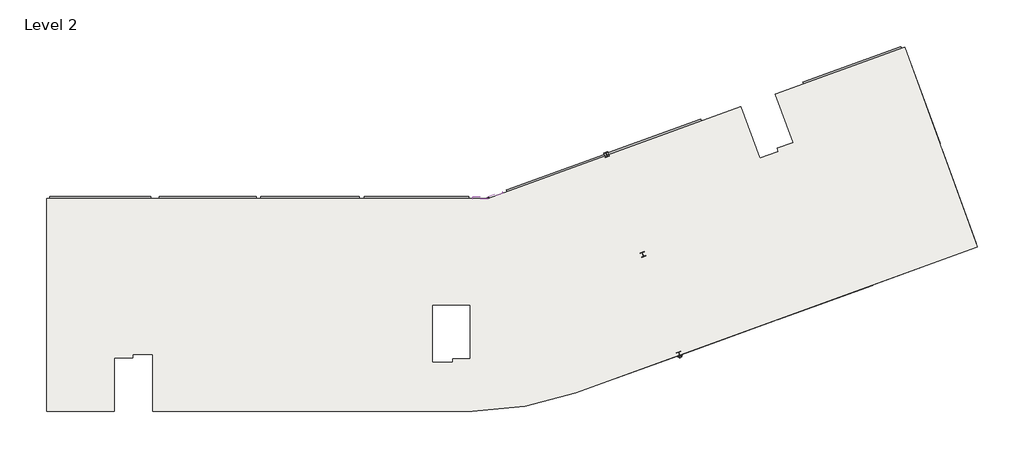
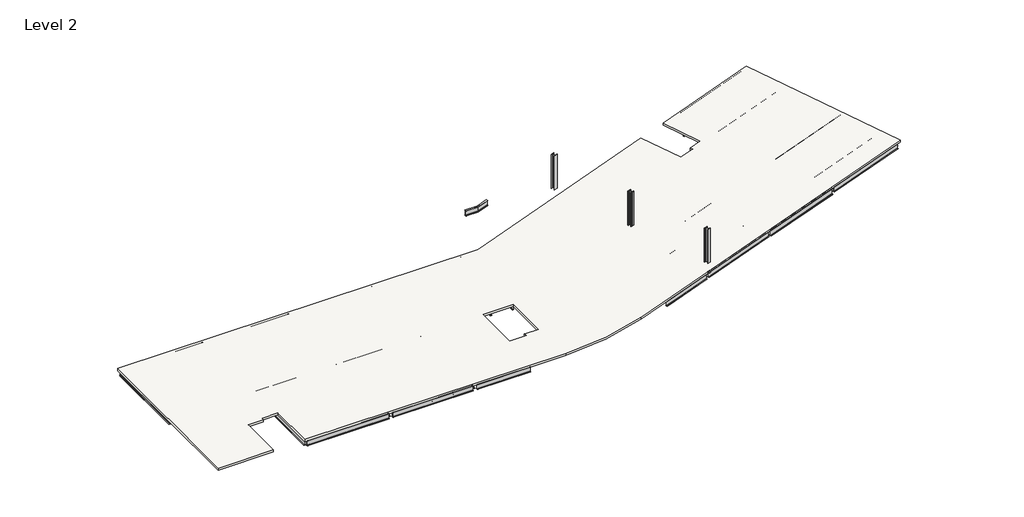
# One storey: 88 beams, 3 columns, 1 slab.
"""IFC4 building model written with IfcOpenShell, lengths in millimetres."""

from ifc_helpers import new_model, si_unit, frame, origin, place, context, project, spatial, circle_curve, transform, mapped, element, save
from ifc_brep_helpers import plane_surface, cylinder_surface, advanced_brep
from components import beam_fb4f222d, l_unequal_leg_angles_l150x75x12_5957f89b, ub_universal_beams_ub305x127x37_f823aa85, ub_universal_beams_ub305x127x37_cdbcbb51, ub_universal_beams_ub305x127x37_8d1efc97, ub_universal_beams_ub305x127x37_2b7a043a, ub_universal_beams_ub305x127x37_8d2b0bf5, ub_universal_beams_ub305x127x37_777f85ab, ub_universal_beams_ub305x127x37_16a75a32, ub_universal_beams_ub305x127x37_b9a7bbe5, ub_universal_beams_ub305x127x37_60794b88, ub_universal_beams_ub305x127x37_0c249d50, ub_universal_beams_ub457x152x67_feb0265b, ub_universal_beams_ub457x152x67_78ad538f, ub_universal_beams_ub457x152x67_801fcbf0, ub_universal_beams_ub457x152x67_7192e0ee, ub_universal_beams_ub457x152x67_e0a47d06, ub_universal_beams_ub457x152x67_f5dc209c, ub_universal_beams_ub457x152x67_f862a4b8, ub_universal_beams_ub457x152x67_25e113f4, ub_universal_beams_ub457x152x67_bf94d013, ub_universal_beams_ub457x152x67_f4163d89, ub_universal_beams_ub457x152x67_2e62ce28, ub_universal_beams_ub457x152x67_04894bd8, ub_universal_beams_ub457x152x67_1d55edab, ub_universal_beams_ub457x152x67_86edb436, ub_universal_beams_ub457x152x67_b17e2f2f, ub_universal_beams_ub457x152x67_b2f2df74, ub_universal_beams_ub457x152x67_b8e2def0, ub_universal_beams_ub457x152x67_2ff38e45, ub_universal_beams_ub457x152x67_e84ce350, ub_universal_beams_ub457x152x67_9db4b58f, ub_universal_beams_ub457x152x67_cb9275ae, ub_universal_beams_ub457x152x67_412efc86, ub_universal_beams_ub457x152x67_9aa03224, ub_universal_beams_ub457x152x67_9cac6dc0, ub_universal_beams_ub457x152x67_907c3d5a, ub_universal_beams_ub457x152x67_0b84d38f, ub_universal_beams_ub457x152x67_1f1a17ad, ub_universal_beams_ub457x152x67_691381ed, ub_universal_beams_ub457x152x67_d2a0b01a, ub_universal_beams_ub457x152x67_b2398499, ub_universal_beams_ub457x152x67_5dccb8d6, ub_universal_beams_ub457x152x67_6dce09a5, ub_universal_beams_ub533x210x82_8ec85ef7, ub_universal_beams_ub533x210x82_ef77b3a2, ub_universal_beams_ub533x210x82_80eea541, w_shapes_column_w12x79_ed890722

model = new_model("IFC4")

# Units and contexts
model_context = context("Model", 3, world=origin())
ifc_project = project(units=[si_unit("LENGTHUNIT", "METRE", prefix="MILLI")], contexts=[model_context])

# Site, building, storey
site = spatial("IfcSite", under=ifc_project)
building = spatial("IfcBuilding", under=site)
storey = spatial("IfcBuildingStorey", under=building, Name="Level 2", Elevation=7595.0)

# Beams
placement = place(None, origin())
beam_shape = beam_fb4f222d(model_context)
element("IfcBeam", 1, ObjectType="Cranked Beam B3 : Cranked Beam B1", at=placement, inside=storey, context=model_context, shape_type="MappedRepresentation", body=[
    mapped(beam_shape, transform((0.0, 0.0, 0.0), x_axis=(1.0, 0.0, 0.0), y_axis=(0.0, 1.0, 0.0), z_axis=(0.0, 0.0, 1.0))),
])
l_unequal_leg_angles_l150x75x12_shape = l_unequal_leg_angles_l150x75x12_5957f89b(model_context)
element("IfcBeam", 2, ObjectType="L-Unequal Leg Angles : L150x75x12", at=placement, inside=storey, context=model_context, shape_type="MappedRepresentation", body=[
    mapped(l_unequal_leg_angles_l150x75x12_shape, transform((45120.9767448, 4161.3796452, 7750.0), x_axis=(0.9396926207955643, 0.3420201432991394, 0.0), y_axis=(0.0, 0.0, 1.0), z_axis=(0.3420201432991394, -0.9396926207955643, 0.0))),
])
ub_universal_beams_ub305x127x37_shape = ub_universal_beams_ub305x127x37_f823aa85(model_context)
element("IfcBeam", 3, ObjectType="UB-Universal Beams : UB305x127x37", at=placement, inside=storey, context=model_context, shape_type="MappedRepresentation", body=[
    mapped(ub_universal_beams_ub305x127x37_shape, transform((9887.2000022, 11613.2000005, 7442.8), x_axis=(0.0, 1.0, 0.0), y_axis=(-1.0, 0.0, 0.0), z_axis=(0.0, 0.0, 1.0))),
])
element("IfcBeam", 4, ObjectType="UB-Universal Beams : UB305x127x37", at=placement, inside=storey, context=model_context, shape_type="MappedRepresentation", body=[
    mapped(ub_universal_beams_ub305x127x37_shape, transform((11712.2000022, 11613.2000005, 7442.8), x_axis=(0.0, 1.0, 0.0), y_axis=(-1.0, 0.0, 0.0), z_axis=(0.0, 0.0, 1.0))),
])
element("IfcBeam", 5, ObjectType="UB-Universal Beams : UB305x127x37", at=placement, inside=storey, context=model_context, shape_type="MappedRepresentation", body=[
    mapped(ub_universal_beams_ub305x127x37_shape, transform((13537.2000023, 11613.2000005, 7442.8), x_axis=(0.0, 1.0, 0.0), y_axis=(-1.0, 0.0, 0.0), z_axis=(0.0, 0.0, 1.0))),
])
element("IfcBeam", 6, ObjectType="UB-Universal Beams : UB305x127x37", at=placement, inside=storey, context=model_context, shape_type="MappedRepresentation", body=[
    mapped(ub_universal_beams_ub305x127x37_shape, transform((17187.2000023, 11613.2000005, 7442.8), x_axis=(0.0, 1.0, 0.0), y_axis=(-1.0, 0.0, 0.0), z_axis=(0.0, 0.0, 1.0))),
])
element("IfcBeam", 7, ObjectType="UB-Universal Beams : UB305x127x37", at=placement, inside=storey, context=model_context, shape_type="MappedRepresentation", body=[
    mapped(ub_universal_beams_ub305x127x37_shape, transform((19012.2000023, 11613.2000005, 7442.8), x_axis=(0.0, 1.0, 0.0), y_axis=(-1.0, 0.0, 0.0), z_axis=(0.0, 0.0, 1.0))),
])
element("IfcBeam", 8, ObjectType="UB-Universal Beams : UB305x127x37", at=placement, inside=storey, context=model_context, shape_type="MappedRepresentation", body=[
    mapped(ub_universal_beams_ub305x127x37_shape, transform((20837.2000022, 11613.2000005, 7442.8), x_axis=(0.0, 1.0, 0.0), y_axis=(-1.0, 0.0, 0.0), z_axis=(0.0, 0.0, 1.0))),
])
element("IfcBeam", 9, ObjectType="UB-Universal Beams : UB305x127x37", at=placement, inside=storey, context=model_context, shape_type="MappedRepresentation", body=[
    mapped(ub_universal_beams_ub305x127x37_shape, transform((24587.2000022, 11613.2000005, 7442.8), x_axis=(0.0, 1.0, 0.0), y_axis=(-1.0, 0.0, 0.0), z_axis=(0.0, 0.0, 1.0))),
])
element("IfcBeam", 10, ObjectType="UB-Universal Beams : UB305x127x37", at=placement, inside=storey, context=model_context, shape_type="MappedRepresentation", body=[
    mapped(ub_universal_beams_ub305x127x37_shape, transform((26512.2000022, 11613.2000005, 7442.8), x_axis=(0.0, 1.0, 0.0), y_axis=(-1.0, 0.0, 0.0), z_axis=(0.0, 0.0, 1.0))),
])
element("IfcBeam", 11, ObjectType="UB-Universal Beams : UB305x127x37", at=placement, inside=storey, context=model_context, shape_type="MappedRepresentation", body=[
    mapped(ub_universal_beams_ub305x127x37_shape, transform((17187.2000022, 4113.2000005, 7442.8), x_axis=(0.0, 1.0, 0.0), y_axis=(-1.0, 0.0, 0.0), z_axis=(0.0, 0.0, 1.0))),
])
element("IfcBeam", 12, ObjectType="UB-Universal Beams : UB305x127x37", at=placement, inside=storey, context=model_context, shape_type="MappedRepresentation", body=[
    mapped(ub_universal_beams_ub305x127x37_shape, transform((19012.2000022, 4113.2000005, 7442.8), x_axis=(0.0, 1.0, 0.0), y_axis=(-1.0, 0.0, 0.0), z_axis=(0.0, 0.0, 1.0))),
])
element("IfcBeam", 13, ObjectType="UB-Universal Beams : UB305x127x37", at=placement, inside=storey, context=model_context, shape_type="MappedRepresentation", body=[
    mapped(ub_universal_beams_ub305x127x37_shape, transform((20837.2000022, 4113.2000005, 7442.8), x_axis=(0.0, 1.0, 0.0), y_axis=(-1.0, 0.0, 0.0), z_axis=(0.0, 0.0, 1.0))),
])
element("IfcBeam", 14, ObjectType="UB-Universal Beams : UB305x127x37", at=placement, inside=storey, context=model_context, shape_type="MappedRepresentation", body=[
    mapped(ub_universal_beams_ub305x127x37_shape, transform((24587.2000022, 4113.2000004, 7442.8), x_axis=(0.0, 1.0, 0.0), y_axis=(-1.0, 0.0, 0.0), z_axis=(0.0, 0.0, 1.0))),
])
element("IfcBeam", 15, ObjectType="UB-Universal Beams : UB305x127x37", at=placement, inside=storey, context=model_context, shape_type="MappedRepresentation", body=[
    mapped(ub_universal_beams_ub305x127x37_shape, transform((26512.2000022, 4113.2000004, 7442.8), x_axis=(0.0, 1.0, 0.0), y_axis=(-1.0, 0.0, 0.0), z_axis=(0.0, 0.0, 1.0))),
])
element("IfcBeam", 16, ObjectType="UB-Universal Beams : UB305x127x37", at=placement, inside=storey, context=model_context, shape_type="MappedRepresentation", body=[
    mapped(ub_universal_beams_ub305x127x37_shape, transform((39409.0148654, 14226.6858637, 7442.8), x_axis=(0.34202014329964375, -0.9396926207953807, 0.0), y_axis=(0.9396926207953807, 0.34202014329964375, 0.0), z_axis=(0.0, 0.0, 1.0))),
])
element("IfcBeam", 17, ObjectType="UB-Universal Beams : UB305x127x37", at=placement, inside=storey, context=model_context, shape_type="MappedRepresentation", body=[
    mapped(ub_universal_beams_ub305x127x37_shape, transform((37600.1065704, 13568.2970878, 7442.8), x_axis=(0.34202014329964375, -0.9396926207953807, 0.0), y_axis=(0.9396926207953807, 0.34202014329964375, 0.0), z_axis=(0.0, 0.0, 1.0))),
])
element("IfcBeam", 18, ObjectType="UB-Universal Beams : UB305x127x37", at=placement, inside=storey, context=model_context, shape_type="MappedRepresentation", body=[
    mapped(ub_universal_beams_ub305x127x37_shape, transform((42915.2429568, 15502.8485233, 7442.8), x_axis=(-0.3420201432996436, 0.9396926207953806, 0.0), y_axis=(-0.9396926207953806, -0.3420201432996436, 0.0), z_axis=(0.0, 0.0, 1.0))),
])
element("IfcBeam", 19, ObjectType="UB-Universal Beams : UB305x127x37", at=placement, inside=storey, context=model_context, shape_type="MappedRepresentation", body=[
    mapped(ub_universal_beams_ub305x127x37_shape, transform((44612.5627531, 16120.6224071, 7442.8), x_axis=(-0.34202014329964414, 0.9396926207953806, 0.0), y_axis=(-0.9396926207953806, -0.34202014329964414, 0.0), z_axis=(0.0, 0.0, 1.0))),
])
element("IfcBeam", 20, ObjectType="UB-Universal Beams : UB305x127x37", at=placement, inside=storey, context=model_context, shape_type="MappedRepresentation", body=[
    mapped(ub_universal_beams_ub305x127x37_shape, transform((46309.8825494, 16738.396291, 7442.8), x_axis=(-0.34202014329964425, 0.9396926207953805, 0.0), y_axis=(-0.9396926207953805, -0.34202014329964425, 0.0), z_axis=(0.0, 0.0, 1.0))),
])
ub_universal_beams_ub305x127x37_2_shape = ub_universal_beams_ub305x127x37_cdbcbb51(model_context)
element("IfcBeam", 21, ObjectType="UB-Universal Beams : UB305x127x37", at=placement, inside=storey, context=model_context, shape_type="MappedRepresentation", body=[
    mapped(ub_universal_beams_ub305x127x37_2_shape, transform((28437.2000022, 11613.2000005, 7442.8), x_axis=(0.0, 1.0, 0.0), y_axis=(-1.0, 0.0, 0.0), z_axis=(0.0, 0.0, 1.0))),
])
ub_universal_beams_ub305x127x37_3_shape = ub_universal_beams_ub305x127x37_8d1efc97(model_context)
element("IfcBeam", 22, ObjectType="UB-Universal Beams : UB305x127x37", at=placement, inside=storey, context=model_context, shape_type="MappedRepresentation", body=[
    mapped(ub_universal_beams_ub305x127x37_3_shape, transform((35791.1982754, 12909.908312, 7442.8), x_axis=(0.3420201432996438, -0.9396926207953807, 0.0), y_axis=(0.9396926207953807, 0.3420201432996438, 0.0), z_axis=(0.0, 0.0, 1.0))),
])
ub_universal_beams_ub305x127x37_4_shape = ub_universal_beams_ub305x127x37_2b7a043a(model_context)
element("IfcBeam", 23, ObjectType="UB-Universal Beams : UB305x127x37", at=placement, inside=storey, context=model_context, shape_type="MappedRepresentation", body=[
    mapped(ub_universal_beams_ub305x127x37_4_shape, transform((42122.1150828, 5237.5069684, 7442.8), x_axis=(-0.939692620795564, -0.3420201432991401, 0.0), y_axis=(0.3420201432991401, -0.939692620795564, 0.0), z_axis=(0.0, 0.0, 1.0))),
])
element("IfcBeam", 24, ObjectType="UB-Universal Beams : UB305x127x37", at=placement, inside=storey, context=model_context, shape_type="MappedRepresentation", body=[
    mapped(ub_universal_beams_ub305x127x37_4_shape, transform((41480.8273141, 6999.4306323, 7442.8), x_axis=(-0.9396926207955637, -0.3420201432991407, 0.0), y_axis=(0.3420201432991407, -0.9396926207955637, 0.0), z_axis=(0.0, 0.0, 1.0))),
])
element("IfcBeam", 25, ObjectType="UB-Universal Beams : UB305x127x37", at=placement, inside=storey, context=model_context, shape_type="MappedRepresentation", body=[
    mapped(ub_universal_beams_ub305x127x37_4_shape, transform((40839.5395455, 8761.3542963, 7442.8), x_axis=(-0.939692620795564, -0.3420201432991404, 0.0), y_axis=(0.3420201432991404, -0.939692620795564, 0.0), z_axis=(0.0, 0.0, 1.0))),
])
ub_universal_beams_ub305x127x37_5_shape = ub_universal_beams_ub305x127x37_8d2b0bf5(model_context)
element("IfcBeam", 26, ObjectType="UB-Universal Beams : UB305x127x37", at=placement, inside=storey, context=model_context, shape_type="MappedRepresentation", body=[
    mapped(ub_universal_beams_ub305x127x37_5_shape, transform((46536.4260592, 10834.8514152, 7442.8), x_axis=(0.9396926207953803, 0.342020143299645, 0.0), y_axis=(-0.342020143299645, 0.9396926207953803, 0.0), z_axis=(0.0, 0.0, 1.0))),
])
element("IfcBeam", 27, ObjectType="UB-Universal Beams : UB305x127x37", at=placement, inside=storey, context=model_context, shape_type="MappedRepresentation", body=[
    mapped(ub_universal_beams_ub305x127x37_5_shape, transform((47177.7138279, 9072.9277512, 7442.8), x_axis=(0.9396926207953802, 0.34202014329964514, 0.0), y_axis=(-0.34202014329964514, 0.9396926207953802, 0.0), z_axis=(0.0, 0.0, 1.0))),
])
element("IfcBeam", 28, ObjectType="UB-Universal Beams : UB305x127x37", at=placement, inside=storey, context=model_context, shape_type="MappedRepresentation", body=[
    mapped(ub_universal_beams_ub305x127x37_5_shape, transform((47819.0015966, 7311.0040872, 7442.8), x_axis=(0.9396926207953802, 0.3420201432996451, 0.0), y_axis=(-0.3420201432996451, 0.9396926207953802, 0.0), z_axis=(0.0, 0.0, 1.0))),
])
ub_universal_beams_ub305x127x37_6_shape = ub_universal_beams_ub305x127x37_777f85ab(model_context)
element("IfcBeam", 29, ObjectType="UB-Universal Beams : UB305x127x37", at=placement, inside=storey, context=model_context, shape_type="MappedRepresentation", body=[
    mapped(ub_universal_beams_ub305x127x37_6_shape, transform((60479.1153202, 15909.5752914, 7442.8), x_axis=(0.9396926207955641, 0.34202014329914, 0.0), y_axis=(-0.34202014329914, 0.9396926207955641, 0.0), z_axis=(0.0, 0.0, 1.0))),
])
element("IfcBeam", 30, ObjectType="UB-Universal Beams : UB305x127x37", at=placement, inside=storey, context=model_context, shape_type="MappedRepresentation", body=[
    mapped(ub_universal_beams_ub305x127x37_6_shape, transform((61120.4030889, 14147.6516274, 7442.8), x_axis=(0.9396926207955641, 0.34202014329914, 0.0), y_axis=(-0.34202014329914, 0.9396926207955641, 0.0), z_axis=(0.0, 0.0, 1.0))),
])
element("IfcBeam", 31, ObjectType="UB-Universal Beams : UB305x127x37", at=placement, inside=storey, context=model_context, shape_type="MappedRepresentation", body=[
    mapped(ub_universal_beams_ub305x127x37_6_shape, transform((61761.6908576, 12385.7279634, 7442.8), x_axis=(0.9396926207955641, 0.3420201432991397, 0.0), y_axis=(-0.3420201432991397, 0.9396926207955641, 0.0), z_axis=(0.0, 0.0, 1.0))),
])
element("IfcBeam", 32, ObjectType="UB-Universal Beams : UB305x127x37", at=placement, inside=storey, context=model_context, shape_type="MappedRepresentation", body=[
    mapped(ub_universal_beams_ub305x127x37_6_shape, transform((57913.9642455, 22957.2699473, 7442.8), x_axis=(0.9396926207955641, 0.3420201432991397, 0.0), y_axis=(-0.3420201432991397, 0.9396926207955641, 0.0), z_axis=(0.0, 0.0, 1.0))),
])
element("IfcBeam", 33, ObjectType="UB-Universal Beams : UB305x127x37", at=placement, inside=storey, context=model_context, shape_type="MappedRepresentation", body=[
    mapped(ub_universal_beams_ub305x127x37_6_shape, transform((58555.2520142, 21195.3462833, 7442.8), x_axis=(0.9396926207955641, 0.3420201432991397, 0.0), y_axis=(-0.3420201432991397, 0.9396926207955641, 0.0), z_axis=(0.0, 0.0, 1.0))),
])
element("IfcBeam", 34, ObjectType="UB-Universal Beams : UB305x127x37", at=placement, inside=storey, context=model_context, shape_type="MappedRepresentation", body=[
    mapped(ub_universal_beams_ub305x127x37_6_shape, transform((59196.5397829, 19433.4226193, 7442.8), x_axis=(0.9396926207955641, 0.3420201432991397, 0.0), y_axis=(-0.3420201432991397, 0.9396926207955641, 0.0), z_axis=(0.0, 0.0, 1.0))),
])
ub_universal_beams_ub305x127x37_7_shape = ub_universal_beams_ub305x127x37_16a75a32(model_context)
element("IfcBeam", 35, ObjectType="UB-Universal Beams : UB305x127x37", at=placement, inside=storey, context=model_context, shape_type="MappedRepresentation", body=[
    mapped(ub_universal_beams_ub305x127x37_7_shape, transform((52185.7228693, 11321.365084, 7442.8), x_axis=(0.9396926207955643, 0.3420201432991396, 0.0), y_axis=(-0.3420201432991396, 0.9396926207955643, 0.0), z_axis=(0.0, 0.0, 1.0))),
])
element("IfcBeam", 36, ObjectType="UB-Universal Beams : UB305x127x37", at=placement, inside=storey, context=model_context, shape_type="MappedRepresentation", body=[
    mapped(ub_universal_beams_ub305x127x37_7_shape, transform((51681.2431579, 12707.4116997, 7442.8), x_axis=(0.9396926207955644, 0.34202014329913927, 0.0), y_axis=(-0.34202014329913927, 0.9396926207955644, 0.0), z_axis=(0.0, 0.0, 1.0))),
])
ub_universal_beams_ub305x127x37_8_shape = ub_universal_beams_ub305x127x37_b9a7bbe5(model_context)
element("IfcBeam", 37, ObjectType="UB-Universal Beams : UB305x127x37", at=placement, inside=storey, context=model_context, shape_type="MappedRepresentation", body=[
    mapped(ub_universal_beams_ub305x127x37_8_shape, transform((55650.8394085, 12582.5643624, 7442.8), x_axis=(0.939692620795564, 0.34202014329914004, 0.0), y_axis=(-0.34202014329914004, 0.939692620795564, 0.0), z_axis=(0.0, 0.0, 1.0))),
])
element("IfcBeam", 38, ObjectType="UB-Universal Beams : UB305x127x37", at=placement, inside=storey, context=model_context, shape_type="MappedRepresentation", body=[
    mapped(ub_universal_beams_ub305x127x37_8_shape, transform((56300.6776807, 10797.1483829, 7442.8), x_axis=(0.9396926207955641, 0.3420201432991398, 0.0), y_axis=(-0.3420201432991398, 0.9396926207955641, 0.0), z_axis=(0.0, 0.0, 1.0))),
])
element("IfcBeam", 39, ObjectType="UB-Universal Beams : UB305x127x37", at=placement, inside=storey, context=model_context, shape_type="MappedRepresentation", body=[
    mapped(ub_universal_beams_ub305x127x37_8_shape, transform((55146.3596971, 13968.6109781, 7442.8), x_axis=(0.9396926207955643, 0.34202014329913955, 0.0), y_axis=(-0.34202014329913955, 0.9396926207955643, 0.0), z_axis=(0.0, 0.0, 1.0))),
])
ub_universal_beams_ub305x127x37_9_shape = ub_universal_beams_ub305x127x37_60794b88(model_context)
element("IfcBeam", 40, ObjectType="UB-Universal Beams : UB305x127x37", at=placement, inside=storey, context=model_context, shape_type="MappedRepresentation", body=[
    mapped(ub_universal_beams_ub305x127x37_9_shape, transform((53431.3248942, 21325.7226526, 7442.8), x_axis=(-0.939692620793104, -0.34202014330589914, 0.0), y_axis=(0.34202014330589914, -0.939692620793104, 0.0), z_axis=(0.0, 0.0, 1.0))),
])
element("IfcBeam", 41, ObjectType="UB-Universal Beams : UB305x127x37", at=placement, inside=storey, context=model_context, shape_type="MappedRepresentation", body=[
    mapped(ub_universal_beams_ub305x127x37_9_shape, transform((54072.6126629, 19563.7989886, 7442.8), x_axis=(-0.939692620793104, -0.3420201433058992, 0.0), y_axis=(0.3420201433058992, -0.939692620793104, 0.0), z_axis=(0.0, 0.0, 1.0))),
])
element("IfcBeam", 42, ObjectType="UB-Universal Beams : UB305x127x37", at=placement, inside=storey, context=model_context, shape_type="MappedRepresentation", body=[
    mapped(ub_universal_beams_ub305x127x37_9_shape, transform((54713.9004316, 17801.8753247, 7442.8), x_axis=(-0.939692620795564, -0.34202014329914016, 0.0), y_axis=(0.34202014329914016, -0.939692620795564, 0.0), z_axis=(0.0, 0.0, 1.0))),
])
ub_universal_beams_ub305x127x37_10_shape = ub_universal_beams_ub305x127x37_0c249d50(model_context)
element("IfcBeam", 43, ObjectType="UB-Universal Beams : UB305x127x37", at=placement, inside=storey, context=model_context, shape_type="MappedRepresentation", body=[
    mapped(ub_universal_beams_ub305x127x37_10_shape, transform((52835.5611416, 9535.9491045, 7442.8), x_axis=(-0.9396926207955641, -0.34202014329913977, 0.0), y_axis=(0.34202014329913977, -0.9396926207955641, 0.0), z_axis=(0.0, 0.0, 1.0))),
])
ub_universal_beams_ub457x152x67_shape = ub_universal_beams_ub457x152x67_feb0265b(model_context)
element("IfcBeam", 44, ObjectType="UB-Universal Beams : UB457x152x67", at=placement, inside=storey, context=model_context, shape_type="MappedRepresentation", body=[
    mapped(ub_universal_beams_ub457x152x67_shape, transform((32191.7898055, 11821.5156209, 7366.0), x_axis=(0.173648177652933, -0.9848077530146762, 0.0), y_axis=(0.9848077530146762, 0.173648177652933, 0.0), z_axis=(0.0, 0.0, 1.0))),
])
ub_universal_beams_ub457x152x67_2_shape = ub_universal_beams_ub457x152x67_78ad538f(model_context)
element("IfcBeam", 45, ObjectType="UB-Universal Beams : UB457x152x67", at=placement, inside=storey, context=model_context, shape_type="MappedRepresentation", body=[
    mapped(ub_universal_beams_ub457x152x67_2_shape, transform((31317.5755278, 11361.2273115, 7366.0), x_axis=(1.0, 0.0, 0.0), y_axis=(0.0, 1.0, 0.0), z_axis=(0.0, 0.0, 1.0))),
])
ub_universal_beams_ub457x152x67_3_shape = ub_universal_beams_ub457x152x67_801fcbf0(model_context)
element("IfcBeam", 46, ObjectType="UB-Universal Beams : UB457x152x67", at=placement, inside=storey, context=model_context, shape_type="MappedRepresentation", body=[
    mapped(ub_universal_beams_ub457x152x67_3_shape, transform((33170.7103845, 11687.9849855, 7366.0), x_axis=(0.9396926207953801, 0.3420201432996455, 0.0), y_axis=(-0.3420201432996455, 0.9396926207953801, 0.0), z_axis=(0.0, 0.0, 1.0))),
])
ub_universal_beams_ub457x152x67_4_shape = ub_universal_beams_ub457x152x67_7192e0ee(model_context)
element("IfcBeam", 47, ObjectType="UB-Universal Beams : UB457x152x67", at=placement, inside=storey, context=model_context, shape_type="MappedRepresentation", body=[
    mapped(ub_universal_beams_ub457x152x67_4_shape, transform((45895.1382905, 12596.7750792, 7366.0), x_axis=(0.9396926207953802, 0.34202014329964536, 0.0), y_axis=(-0.34202014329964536, 0.9396926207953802, 0.0), z_axis=(0.0, 0.0, 1.0))),
])
element("IfcBeam", 48, ObjectType="UB-Universal Beams : UB457x152x67", at=placement, inside=storey, context=model_context, shape_type="MappedRepresentation", body=[
    mapped(ub_universal_beams_ub457x152x67_4_shape, transform((48460.2893652, 5549.0804232, 7366.0), x_axis=(0.9396926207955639, 0.3420201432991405, 0.0), y_axis=(-0.3420201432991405, 0.9396926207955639, 0.0), z_axis=(0.0, 0.0, 1.0))),
])
ub_universal_beams_ub457x152x67_5_shape = ub_universal_beams_ub457x152x67_e0a47d06(model_context)
element("IfcBeam", 49, ObjectType="UB-Universal Beams : UB457x152x67", at=placement, inside=storey, context=model_context, shape_type="MappedRepresentation", body=[
    mapped(ub_universal_beams_ub457x152x67_5_shape, transform((40198.2517768, 10523.2779603, 7366.0), x_axis=(0.9396926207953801, 0.34202014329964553, 0.0), y_axis=(-0.34202014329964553, 0.9396926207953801, 0.0), z_axis=(0.0, 0.0, 1.0))),
])
ub_universal_beams_ub457x152x67_6_shape = ub_universal_beams_ub457x152x67_f5dc209c(model_context)
element("IfcBeam", 50, ObjectType="UB-Universal Beams : UB457x152x67", at=placement, inside=storey, context=model_context, shape_type="MappedRepresentation", body=[
    mapped(ub_universal_beams_ub457x152x67_6_shape, transform((41217.9231605, 14885.0746394, 7366.0), x_axis=(-0.3420201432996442, 0.9396926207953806, 0.0), y_axis=(-0.9396926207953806, -0.3420201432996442, 0.0), z_axis=(0.0, 0.0, 1.0))),
])
ub_universal_beams_ub457x152x67_7_shape = ub_universal_beams_ub457x152x67_f862a4b8(model_context)
element("IfcBeam", 51, ObjectType="UB-Universal Beams : UB457x152x67", at=placement, inside=storey, context=model_context, shape_type="MappedRepresentation", body=[
    mapped(ub_universal_beams_ub457x152x67_7_shape, transform((42763.4028515, 3475.5833044, 7366.0), x_axis=(-0.9396926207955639, -0.34202014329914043, 0.0), y_axis=(0.34202014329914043, -0.9396926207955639, 0.0), z_axis=(0.0, 0.0, 1.0))),
])
ub_universal_beams_ub457x152x67_8_shape = ub_universal_beams_ub457x152x67_25e113f4(model_context)
element("IfcBeam", 52, ObjectType="UB-Universal Beams : UB457x152x67", at=placement, inside=storey, context=model_context, shape_type="MappedRepresentation", body=[
    mapped(ub_universal_beams_ub457x152x67_8_shape, transform((2457.6125027, 11575.7000004, 7366.0), x_axis=(0.0, 1.0, 0.0), y_axis=(-1.0, 0.0, 0.0), z_axis=(0.0, 0.0, 1.0))),
])
element("IfcBeam", 53, ObjectType="UB-Universal Beams : UB457x152x67", at=placement, inside=storey, context=model_context, shape_type="MappedRepresentation", body=[
    mapped(ub_universal_beams_ub457x152x67_8_shape, transform((4301.1250026, 11575.7000004, 7366.0), x_axis=(0.0, 1.0, 0.0), y_axis=(-1.0, 0.0, 0.0), z_axis=(0.0, 0.0, 1.0))),
])
element("IfcBeam", 54, ObjectType="UB-Universal Beams : UB457x152x67", at=placement, inside=storey, context=model_context, shape_type="MappedRepresentation", body=[
    mapped(ub_universal_beams_ub457x152x67_8_shape, transform((6144.6375025, 11575.7000005, 7366.0), x_axis=(0.0, 1.0, 0.0), y_axis=(-1.0, 0.0, 0.0), z_axis=(0.0, 0.0, 1.0))),
])
ub_universal_beams_ub457x152x67_9_shape = ub_universal_beams_ub457x152x67_bf94d013(model_context)
element("IfcBeam", 55, ObjectType="UB-Universal Beams : UB457x152x67", at=placement, inside=storey, context=model_context, shape_type="MappedRepresentation", body=[
    mapped(ub_universal_beams_ub457x152x67_9_shape, transform((9831.6625024, 4113.2000005, 7366.0), x_axis=(0.0, 1.0, 0.0), y_axis=(-1.0, 0.0, 0.0), z_axis=(0.0, 0.0, 1.0))),
])
element("IfcBeam", 56, ObjectType="UB-Universal Beams : UB457x152x67", at=placement, inside=storey, context=model_context, shape_type="MappedRepresentation", body=[
    mapped(ub_universal_beams_ub457x152x67_9_shape, transform((11675.1750024, 4113.2000005, 7366.0), x_axis=(0.0, 1.0, 0.0), y_axis=(-1.0, 0.0, 0.0), z_axis=(0.0, 0.0, 1.0))),
])
element("IfcBeam", 57, ObjectType="UB-Universal Beams : UB457x152x67", at=placement, inside=storey, context=model_context, shape_type="MappedRepresentation", body=[
    mapped(ub_universal_beams_ub457x152x67_9_shape, transform((13518.6875023, 4113.2000005, 7366.0), x_axis=(0.0, 1.0, 0.0), y_axis=(-1.0, 0.0, 0.0), z_axis=(0.0, 0.0, 1.0))),
])
element("IfcBeam", 58, ObjectType="UB-Universal Beams : UB457x152x67", at=placement, inside=storey, context=model_context, shape_type="MappedRepresentation", body=[
    mapped(ub_universal_beams_ub457x152x67_6_shape, transform((43783.0742352, 7837.3799835, 7366.0), x_axis=(-0.3420201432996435, 0.939692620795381, 0.0), y_axis=(-0.939692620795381, -0.3420201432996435, 0.0), z_axis=(0.0, 0.0, 1.0))),
])
ub_universal_beams_ub457x152x67_10_shape = ub_universal_beams_ub457x152x67_f4163d89(model_context)
element("IfcBeam", 59, ObjectType="UB-Universal Beams : UB457x152x67", at=placement, inside=storey, context=model_context, shape_type="MappedRepresentation", body=[
    mapped(ub_universal_beams_ub457x152x67_10_shape, transform((19012.2000023, 7863.2000004, 7366.0), x_axis=(1.0, 0.0, 0.0), y_axis=(0.0, 1.0, 0.0), z_axis=(0.0, 0.0, 1.0))),
])
ub_universal_beams_ub457x152x67_11_shape = ub_universal_beams_ub457x152x67_2e62ce28(model_context)
element("IfcBeam", 60, ObjectType="UB-Universal Beams : UB457x152x67", at=placement, inside=storey, context=model_context, shape_type="MappedRepresentation", body=[
    mapped(ub_universal_beams_ub457x152x67_11_shape, transform((25112.2000025, 7863.2000004, 7366.0), x_axis=(1.0, 0.0, 0.0), y_axis=(0.0, 1.0, 0.0), z_axis=(0.0, 0.0, 1.0))),
])
ub_universal_beams_ub457x152x67_12_shape = ub_universal_beams_ub457x152x67_04894bd8(model_context)
element("IfcBeam", 61, ObjectType="UB-Universal Beams : UB457x152x67", at=placement, inside=storey, context=model_context, shape_type="MappedRepresentation", body=[
    mapped(ub_universal_beams_ub457x152x67_12_shape, transform((57502.5864988, 12830.8740757, 7366.0), x_axis=(0.3420201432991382, -0.9396926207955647, 0.0), y_axis=(0.9396926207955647, 0.3420201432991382, 0.0), z_axis=(0.0, 0.0, 1.0))),
])
ub_universal_beams_ub457x152x67_13_shape = ub_universal_beams_ub457x152x67_1d55edab(model_context)
element("IfcBeam", 62, ObjectType="UB-Universal Beams : UB457x152x67", at=placement, inside=storey, context=model_context, shape_type="MappedRepresentation", body=[
    mapped(ub_universal_beams_ub457x152x67_13_shape, transform((7988.1500025, 7863.2000005, 7366.0), x_axis=(0.0, 1.0, 0.0), y_axis=(-1.0, 0.0, 0.0), z_axis=(0.0, 0.0, 1.0))),
])
ub_universal_beams_ub457x152x67_14_shape = ub_universal_beams_ub457x152x67_86edb436(model_context)
element("IfcBeam", 63, ObjectType="UB-Universal Beams : UB457x152x67", at=placement, inside=storey, context=model_context, shape_type="MappedRepresentation", body=[
    mapped(ub_universal_beams_ub457x152x67_14_shape, transform((614.1000027, 11575.7000004, 7366.0), x_axis=(0.0, 1.0, 0.0), y_axis=(-1.0, 0.0, 0.0), z_axis=(0.0, 0.0, 1.0))),
])
ub_universal_beams_ub457x152x67_15_shape = ub_universal_beams_ub457x152x67_b17e2f2f(model_context)
element("IfcBeam", 64, ObjectType="UB-Universal Beams : UB457x152x67", at=placement, inside=storey, context=model_context, shape_type="MappedRepresentation", body=[
    mapped(ub_universal_beams_ub457x152x67_15_shape, transform((11712.2000023, 15363.2000005, 7366.0), x_axis=(1.0, 0.0, 0.0), y_axis=(0.0, 1.0, 0.0), z_axis=(0.0, 0.0, 1.0))),
])
ub_universal_beams_ub457x152x67_16_shape = ub_universal_beams_ub457x152x67_b2f2df74(model_context)
element("IfcBeam", 65, ObjectType="UB-Universal Beams : UB457x152x67", at=placement, inside=storey, context=model_context, shape_type="MappedRepresentation", body=[
    mapped(ub_universal_beams_ub457x152x67_16_shape, transform((19012.2000023, 15363.2000005, 7366.0), x_axis=(1.0, 0.0, 0.0), y_axis=(0.0, 1.0, 0.0), z_axis=(0.0, 0.0, 1.0))),
])
element("IfcBeam", 66, ObjectType="UB-Universal Beams : UB457x152x67", at=placement, inside=storey, context=model_context, shape_type="MappedRepresentation", body=[
    mapped(ub_universal_beams_ub457x152x67_16_shape, transform((19012.2000022, 363.2000005, 7366.0), x_axis=(1.0, 0.0, 0.0), y_axis=(0.0, 1.0, 0.0), z_axis=(0.0, 0.0, 1.0))),
])
ub_universal_beams_ub457x152x67_17_shape = ub_universal_beams_ub457x152x67_b8e2def0(model_context)
element("IfcBeam", 67, ObjectType="UB-Universal Beams : UB457x152x67", at=placement, inside=storey, context=model_context, shape_type="MappedRepresentation", body=[
    mapped(ub_universal_beams_ub457x152x67_17_shape, transform((11674.7000023, 363.2000005, 7366.0), x_axis=(-1.0, 0.0, 0.0), y_axis=(0.0, -1.0, 0.0), z_axis=(0.0, 0.0, 1.0))),
])
ub_universal_beams_ub457x152x67_18_shape = ub_universal_beams_ub457x152x67_2ff38e45(model_context)
element("IfcBeam", 68, ObjectType="UB-Universal Beams : UB457x152x67", at=placement, inside=storey, context=model_context, shape_type="MappedRepresentation", body=[
    mapped(ub_universal_beams_ub457x152x67_18_shape, transform((25112.2000025, 363.2000005, 7366.0), x_axis=(1.0, 0.0, 0.0), y_axis=(0.0, 1.0, 0.0), z_axis=(0.0, 0.0, 1.0))),
])
ub_universal_beams_ub457x152x67_19_shape = ub_universal_beams_ub457x152x67_e84ce350(model_context)
element("IfcBeam", 69, ObjectType="UB-Universal Beams : UB457x152x67", at=placement, inside=storey, context=model_context, shape_type="MappedRepresentation", body=[
    mapped(ub_universal_beams_ub457x152x67_19_shape, transform((15362.2000023, 4113.2000005, 7366.0), x_axis=(0.0, 1.0, 0.0), y_axis=(-1.0, 0.0, 0.0), z_axis=(0.0, 0.0, 1.0))),
])
element("IfcBeam", 70, ObjectType="UB-Universal Beams : UB457x152x67", at=placement, inside=storey, context=model_context, shape_type="MappedRepresentation", body=[
    mapped(ub_universal_beams_ub457x152x67_19_shape, transform((22662.2000022, 4113.2000005, 7366.0), x_axis=(0.0, 1.0, 0.0), y_axis=(-1.0, 0.0, 0.0), z_axis=(0.0, 0.0, 1.0))),
])
ub_universal_beams_ub457x152x67_20_shape = ub_universal_beams_ub457x152x67_9db4b58f(model_context)
element("IfcBeam", 71, ObjectType="UB-Universal Beams : UB457x152x67", at=placement, inside=storey, context=model_context, shape_type="MappedRepresentation", body=[
    mapped(ub_universal_beams_ub457x152x67_20_shape, transform((15362.2000023, 11613.2000005, 7366.0), x_axis=(0.0, 1.0, 0.0), y_axis=(-1.0, 0.0, 0.0), z_axis=(0.0, 0.0, 1.0))),
])
element("IfcBeam", 72, ObjectType="UB-Universal Beams : UB457x152x67", at=placement, inside=storey, context=model_context, shape_type="MappedRepresentation", body=[
    mapped(ub_universal_beams_ub457x152x67_20_shape, transform((22662.2000022, 11613.2000005, 7366.0), x_axis=(0.0, 1.0, 0.0), y_axis=(-1.0, 0.0, 0.0), z_axis=(0.0, 0.0, 1.0))),
])
ub_universal_beams_ub457x152x67_21_shape = ub_universal_beams_ub457x152x67_cb9275ae(model_context)
element("IfcBeam", 73, ObjectType="UB-Universal Beams : UB457x152x67", at=placement, inside=storey, context=model_context, shape_type="MappedRepresentation", body=[
    mapped(ub_universal_beams_ub457x152x67_21_shape, transform((43329.9872158, 19644.4697351, 7366.0), x_axis=(0.9396926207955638, 0.3420201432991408, 0.0), y_axis=(-0.3420201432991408, 0.9396926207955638, 0.0), z_axis=(0.0, 0.0, 1.0))),
])
ub_universal_beams_ub457x152x67_22_shape = ub_universal_beams_ub457x152x67_412efc86(model_context)
element("IfcBeam", 74, ObjectType="UB-Universal Beams : UB457x152x67", at=placement, inside=storey, context=model_context, shape_type="MappedRepresentation", body=[
    mapped(ub_universal_beams_ub457x152x67_22_shape, transform((62402.9786263, 10623.8042994, 7366.0), x_axis=(0.9396926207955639, 0.34202014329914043, 0.0), y_axis=(-0.34202014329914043, 0.9396926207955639, 0.0), z_axis=(0.0, 0.0, 1.0))),
])
ub_universal_beams_ub457x152x67_23_shape = ub_universal_beams_ub457x152x67_9aa03224(model_context)
element("IfcBeam", 75, ObjectType="UB-Universal Beams : UB457x152x67", at=placement, inside=storey, context=model_context, shape_type="MappedRepresentation", body=[
    mapped(ub_universal_beams_ub457x152x67_23_shape, transform((64738.219679, 15464.4291791, 7366.0), x_axis=(-0.34202014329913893, 0.9396926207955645, 0.0), y_axis=(-0.9396926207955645, -0.34202014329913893, 0.0), z_axis=(0.0, 0.0, 1.0))),
])
element("IfcBeam", 76, ObjectType="UB-Universal Beams : UB457x152x67", at=placement, inside=storey, context=model_context, shape_type="MappedRepresentation", body=[
    mapped(ub_universal_beams_ub457x152x67_23_shape, transform((62173.0686043, 22512.123835, 7366.0), x_axis=(-0.3420201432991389, 0.9396926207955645, 0.0), y_axis=(-0.9396926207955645, -0.3420201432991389, 0.0), z_axis=(0.0, 0.0, 1.0))),
])
ub_universal_beams_ub457x152x67_24_shape = ub_universal_beams_ub457x152x67_9cac6dc0(model_context)
element("IfcBeam", 77, ObjectType="UB-Universal Beams : UB457x152x67", at=placement, inside=storey, context=model_context, shape_type="MappedRepresentation", body=[
    mapped(ub_universal_beams_ub457x152x67_24_shape, transform((57272.6764768, 24719.1936113, 7366.0), x_axis=(-0.9396926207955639, -0.3420201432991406, 0.0), y_axis=(0.3420201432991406, -0.9396926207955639, 0.0), z_axis=(0.0, 0.0, 1.0))),
])
ub_universal_beams_ub457x152x67_25_shape = ub_universal_beams_ub457x152x67_907c3d5a(model_context)
element("IfcBeam", 78, ObjectType="UB-Universal Beams : UB457x152x67", at=placement, inside=storey, context=model_context, shape_type="MappedRepresentation", body=[
    mapped(ub_universal_beams_ub457x152x67_25_shape, transform((54937.4354241, 19878.5687316, 7366.0), x_axis=(-0.3420201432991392, 0.9396926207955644, 0.0), y_axis=(-0.9396926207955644, -0.3420201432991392, 0.0), z_axis=(0.0, 0.0, 1.0))),
])
ub_universal_beams_ub457x152x67_26_shape = ub_universal_beams_ub457x152x67_0b84d38f(model_context)
element("IfcBeam", 79, ObjectType="UB-Universal Beams : UB457x152x67", at=placement, inside=storey, context=model_context, shape_type="MappedRepresentation", body=[
    mapped(ub_universal_beams_ub457x152x67_26_shape, transform((59849.5737093, 17675.7742072, 7366.0), x_axis=(0.9396926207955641, 0.3420201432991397, 0.0), y_axis=(-0.3420201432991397, 0.9396926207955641, 0.0), z_axis=(0.0, 0.0, 1.0))),
])
ub_universal_beams_ub457x152x67_27_shape = ub_universal_beams_ub457x152x67_1f1a17ad(model_context)
element("IfcBeam", 80, ObjectType="UB-Universal Beams : UB457x152x67", at=placement, inside=storey, context=model_context, shape_type="MappedRepresentation", body=[
    mapped(ub_universal_beams_ub457x152x67_27_shape, transform((26512.2000022, 15363.2000005, 7366.0), x_axis=(1.0, 0.0, 0.0), y_axis=(0.0, 1.0, 0.0), z_axis=(0.0, 0.0, 1.0))),
])
ub_universal_beams_ub457x152x67_28_shape = ub_universal_beams_ub457x152x67_691381ed(model_context)
element("IfcBeam", 81, ObjectType="UB-Universal Beams : UB457x152x67", at=placement, inside=storey, context=model_context, shape_type="MappedRepresentation", body=[
    mapped(ub_universal_beams_ub457x152x67_28_shape, transform((30362.2000022, 11613.2000005, 7366.0), x_axis=(0.0, 1.0, 0.0), y_axis=(-1.0, 0.0, 0.0), z_axis=(0.0, 0.0, 1.0))),
])
ub_universal_beams_ub457x152x67_29_shape = ub_universal_beams_ub457x152x67_d2a0b01a(model_context)
element("IfcBeam", 82, ObjectType="UB-Universal Beams : UB457x152x67", at=placement, inside=storey, context=model_context, shape_type="MappedRepresentation", body=[
    mapped(ub_universal_beams_ub457x152x67_29_shape, transform((33982.2899804, 12251.5195361, 7366.0), x_axis=(0.3420201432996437, -0.9396926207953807, 0.0), y_axis=(0.9396926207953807, 0.3420201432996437, 0.0), z_axis=(0.0, 0.0, 1.0))),
])
ub_universal_beams_ub457x152x67_30_shape = ub_universal_beams_ub457x152x67_b2398499(model_context)
element("IfcBeam", 83, ObjectType="UB-Universal Beams : UB457x152x67", at=placement, inside=storey, context=model_context, shape_type="MappedRepresentation", body=[
    mapped(ub_universal_beams_ub457x152x67_30_shape, transform((36317.5310328, 17092.1444158, 7366.0), x_axis=(0.9396926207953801, 0.3420201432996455, 0.0), y_axis=(-0.3420201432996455, 0.9396926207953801, 0.0), z_axis=(0.0, 0.0, 1.0))),
])
ub_universal_beams_ub457x152x67_31_shape = ub_universal_beams_ub457x152x67_5dccb8d6(model_context)
element("IfcBeam", 84, ObjectType="UB-Universal Beams : UB457x152x67", at=placement, inside=storey, context=model_context, shape_type="MappedRepresentation", body=[
    mapped(ub_universal_beams_ub457x152x67_31_shape, transform((8062.2000022, 11613.2000005, 7366.0), x_axis=(0.0, 1.0, 0.0), y_axis=(-1.0, 0.0, 0.0), z_axis=(0.0, 0.0, 1.0))),
])
ub_universal_beams_ub457x152x67_32_shape = ub_universal_beams_ub457x152x67_6dce09a5(model_context)
element("IfcBeam", 85, ObjectType="UB-Universal Beams : UB457x152x67", at=placement, inside=storey, context=model_context, shape_type="MappedRepresentation", body=[
    mapped(ub_universal_beams_ub457x152x67_32_shape, transform((11675.1750024, 7863.2000004, 7366.0), x_axis=(-1.0, 0.0, 0.0), y_axis=(0.0, -1.0, 0.0), z_axis=(0.0, 0.0, 1.0))),
])
ub_universal_beams_ub533x210x82_shape = ub_universal_beams_ub533x210x82_8ec85ef7(model_context)
element("IfcBeam", 86, ObjectType="UB-Universal Beams : UB533x210x82", at=placement, inside=storey, context=model_context, shape_type="MappedRepresentation", body=[
    mapped(ub_universal_beams_ub533x210x82_shape, transform((54042.3541451, 11665.8982726, 7330.85), x_axis=(-0.34202014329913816, 0.9396926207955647, 0.0), y_axis=(-0.9396926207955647, -0.34202014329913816, 0.0), z_axis=(0.0, 0.0, 1.0))),
])
ub_universal_beams_ub533x210x82_2_shape = ub_universal_beams_ub533x210x82_ef77b3a2(model_context)
element("IfcBeam", 87, ObjectType="UB-Universal Beams : UB533x210x82", at=placement, inside=storey, context=model_context, shape_type="MappedRepresentation", body=[
    mapped(ub_universal_beams_ub533x210x82_2_shape, transform((55320.045497, 8045.8274693, 7330.85), x_axis=(0.9396926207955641, 0.3420201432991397, 0.0), y_axis=(-0.3420201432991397, 0.9396926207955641, 0.0), z_axis=(0.0, 0.0, 1.0))),
])
ub_universal_beams_ub533x210x82_3_shape = ub_universal_beams_ub533x210x82_80eea541(model_context)
element("IfcBeam", 88, ObjectType="UB-Universal Beams : UB533x210x82", at=placement, inside=storey, context=model_context, shape_type="MappedRepresentation", body=[
    mapped(ub_universal_beams_ub533x210x82_3_shape, transform((4212.2000022, 15363.2000005, 7330.85), x_axis=(1.0, 0.0, 0.0), y_axis=(0.0, 1.0, 0.0), z_axis=(0.0, 0.0, 1.0))),
])

# Columns
w_shapes_column_w12x79_shape = w_shapes_column_w12x79_ed890722(model_context)
element("IfcColumn", 89, ObjectType="W Shapes-Column : W12X79", at=placement, inside=storey, context=model_context, shape_type="MappedRepresentation", body=[
    mapped(w_shapes_column_w12x79_shape, transform((42500.4986978, 11361.2273115, 0.0), x_axis=(0.9396926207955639, 0.3420201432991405, 0.0), y_axis=(-0.3420201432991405, 0.9396926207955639, 0.0), z_axis=(0.0, 0.0, 1.0))),
])
element("IfcColumn", 90, ObjectType="W Shapes-Column : W12X79", at=placement, inside=storey, context=model_context, shape_type="MappedRepresentation", body=[
    mapped(w_shapes_column_w12x79_shape, transform((45065.6497726, 4313.5326555, 0.0), x_axis=(0.939692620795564, 0.3420201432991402, 0.0), y_axis=(-0.3420201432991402, 0.939692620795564, 0.0), z_axis=(0.0, 0.0, 1.0))),
])
element("IfcColumn", 91, ObjectType="W Shapes-Column : W12X79", at=placement, inside=storey, context=model_context, shape_type="MappedRepresentation", body=[
    mapped(w_shapes_column_w12x79_shape, transform((39935.3476231, 18408.9219674, 0.0), x_axis=(0.9396926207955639, 0.3420201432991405, 0.0), y_axis=(-0.3420201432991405, 0.9396926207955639, 0.0), z_axis=(0.0, 0.0, 1.0))),
])

# Slab
element("IfcSlab", 92, ObjectType="RC COMP 175", at=placement, inside=storey, context=model_context, shape_type="AdvancedBrep", body=[
    advanced_brep(
    [(31575.1947409, 15318.4000004, 7595.0), (49412.7637168, 21810.7441587, 7595.0), (50743.9061145, 18153.4604787, 7595.0), (52050.0788572, 18628.8684778, 7595.0), (51964.5738214, 18863.791633, 7595.0), (53092.2049665, 19274.215805, 7595.0), (51846.5676046, 22696.5763298, 7595.0), (60969.2448211, 26016.9592931, 7595.0), (66109.9443828, 11893.0033256, 7595.0), (37761.7672424, 1575.1106518, 7595.0), (30462.2000024, 288.0, 7595.0), (7887.2000024, 288.0, 7595.0), (7887.2000024, 4300.0, 7595.0), (6497.2000024, 4300.0, 7595.0), (6497.2000024, 4050.0, 7595.0), (5180.4333362, 4050.0, 7595.0), (5180.4333362, 288.0, 7595.0), (408.0, 288.0, 7595.0), (408.0000012, 7688.2000003, 7595.0), (408.0000013, 7888.2000003, 7595.0), (408.0000025, 15318.4000008, 7595.0), (27662.2000028, 7763.2000004, 7595.0), (27662.2000028, 3763.2000006, 7595.0), (29052.2000029, 3763.2000006, 7595.0), (29052.2000029, 4013.2000006, 7595.0), (30262.2000024, 4013.2000006, 7595.0), (30262.2000024, 7763.2000004, 7595.0), (31575.1947409, 15318.4000004, 7795.0), (408.0000025, 15318.4000008, 7795.0), (408.0000013, 7888.2000003, 7795.0), (408.0000012, 7688.2000003, 7795.0), (408.0, 288.0, 7795.0), (5180.4333362, 288.0, 7795.0), (5180.4333362, 4050.0, 7795.0), (6497.2000024, 4050.0, 7795.0), (6497.2000024, 4300.0, 7795.0), (7887.2000024, 4300.0, 7795.0), (7887.2000024, 288.0, 7795.0), (30462.2000024, 288.0, 7795.0), (37761.7672424, 1575.1106518, 7795.0), (66109.9443828, 11893.0033256, 7795.0), (60969.2448211, 26016.9592931, 7795.0), (51846.5676046, 22696.5763298, 7795.0), (53092.2049665, 19274.215805, 7795.0), (51964.5738214, 18863.791633, 7795.0), (52050.0788572, 18628.8684778, 7795.0), (50743.9061145, 18153.4604787, 7795.0), (49412.7637168, 21810.7441587, 7795.0), (27662.2000028, 7763.2000004, 7795.0), (30262.2000024, 7763.2000004, 7795.0), (30262.2000024, 4013.2000006, 7795.0), (29052.2000029, 4013.2000006, 7795.0), (29052.2000029, 3763.2000006, 7795.0), (27662.2000028, 3763.2000006, 7795.0)],
    [
        (0, 1),
        (1, 2),
        (2, 3),
        (3, 4),
        (4, 5),
        (5, 6),
        (6, 7),
        (7, 8),
        (8, 9),
        (9, 10, circle_curve(frame((30462.2000024, 21630.5068175, 7595.0), z_axis=(0.0, 0.0, -1.0), x_axis=(1.0, 0.0, 0.0)), 21342.5068175)),
        (10, 11),
        (11, 12),
        (12, 13),
        (13, 14),
        (14, 15),
        (15, 16),
        (16, 17),
        (17, 18),
        (18, 19),
        (19, 20),
        (20, 0),
        (21, 22),
        (22, 23),
        (23, 24),
        (24, 25),
        (25, 26),
        (26, 21),
        (27, 28),
        (28, 29),
        (29, 30),
        (30, 31),
        (31, 32),
        (32, 33),
        (33, 34),
        (34, 35),
        (35, 36),
        (36, 37),
        (37, 38),
        (38, 39, circle_curve(frame((30462.2000024, 21630.5068175, 7795.0), z_axis=(0.0, 0.0, 1.0), x_axis=(1.0, 0.0, 0.0)), 21342.5068175)),
        (39, 40),
        (40, 41),
        (41, 42),
        (42, 43),
        (43, 44),
        (44, 45),
        (45, 46),
        (46, 47),
        (47, 27),
        (48, 49),
        (49, 50),
        (50, 51),
        (51, 52),
        (52, 53),
        (53, 48),
        (10, 38),
        (37, 11),
        (17, 31),
        (28, 20),
        (27, 0),
        (47, 1),
        (7, 41),
        (40, 8),
        (39, 9),
        (46, 2),
        (45, 3),
        (44, 4),
        (43, 5),
        (42, 6),
        (36, 12),
        (35, 13),
        (34, 14),
        (33, 15),
        (32, 16),
        (21, 48),
        (53, 22),
        (52, 23),
        (51, 24),
        (50, 25),
        (49, 26),
    ],
    [
        plane_surface(frame((31575.1947409, 15318.4000004, 7595.0), z_axis=(0.0, 0.0, -1.0), x_axis=(0.9396926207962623, 0.3420201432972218, 0.0))),
        plane_surface(frame((31575.1947409, 15318.4000004, 7795.0), z_axis=(0.0, 0.0, 1.0), x_axis=(-0.9396926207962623, -0.3420201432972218, 0.0))),
        plane_surface(frame((30462.2000024, 288.0, 7595.0), z_axis=(0.0, -1.0, 0.0), x_axis=(0.0, 0.0, 1.0))),
        plane_surface(frame((408.0, 288.0, 7595.0), z_axis=(-1.0, 1.600286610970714e-10, 0.0), x_axis=(0.0, 0.0, 1.0))),
        plane_surface(frame((408.0000025, 15318.4000008, 7595.0), z_axis=(1.1443360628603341e-11, 1.0, 0.0), x_axis=(0.0, 0.0, 1.0))),
        plane_surface(frame((31575.1947409, 15318.4000004, 7595.0), z_axis=(-0.3420201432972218, 0.9396926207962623, 0.0), x_axis=(0.0, 0.0, 1.0))),
        plane_surface(frame((60969.2448211, 26016.9592931, 7595.0), z_axis=(0.9396926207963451, 0.3420201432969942, 0.0), x_axis=(0.0, 0.0, 1.0))),
        plane_surface(frame((66109.9443828, 11893.0033256, 7595.0), z_axis=(0.3420201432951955, -0.9396926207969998, 0.0), x_axis=(0.0, 0.0, 1.0))),
        cylinder_surface(frame((30462.2000024, 21630.5068175, 7795.0), z_axis=(0.0, 0.0, -1.0), x_axis=(1.0, 0.0, 0.0)), 21342.5068175),
        plane_surface(frame((49412.7637168, 21810.7441587, 7595.0), z_axis=(0.9396926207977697, 0.34202014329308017, 0.0), x_axis=(0.0, 0.0, 1.0))),
        plane_surface(frame((50743.9061145, 18153.4604787, 7595.0), z_axis=(-0.34202014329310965, 0.9396926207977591, 0.0), x_axis=(0.0, 0.0, 1.0))),
        plane_surface(frame((52050.0788572, 18628.8684778, 7595.0), z_axis=(-0.9396926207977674, -0.3420201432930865, 0.0), x_axis=(0.0, 0.0, 1.0))),
        plane_surface(frame((51964.5738214, 18863.791633, 7595.0), z_axis=(-0.3420201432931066, 0.9396926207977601, 0.0), x_axis=(0.0, 0.0, 1.0))),
        plane_surface(frame((53092.2049665, 19274.215805, 7595.0), z_axis=(-0.9396926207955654, -0.34202014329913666, 0.0), x_axis=(0.0, 0.0, 1.0))),
        plane_surface(frame((51846.5676046, 22696.5763298, 7595.0), z_axis=(-0.3420201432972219, 0.9396926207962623, 0.0), x_axis=(0.0, 0.0, 1.0))),
        plane_surface(frame((7887.2000024, 288.0, 7595.0), z_axis=(-1.0, 0.0, 0.0), x_axis=(0.0, 0.0, 1.0))),
        plane_surface(frame((7887.2000024, 4300.0, 7595.0), z_axis=(0.0, -1.0, 0.0), x_axis=(0.0, 0.0, 1.0))),
        plane_surface(frame((6497.2000024, 4300.0, 7595.0), z_axis=(1.0, 0.0, 0.0), x_axis=(0.0, 0.0, 1.0))),
        plane_surface(frame((6497.2000024, 4050.0, 7595.0), z_axis=(0.0, -1.0, 0.0), x_axis=(0.0, 0.0, 1.0))),
        plane_surface(frame((5180.4333362, 4050.0, 7595.0), z_axis=(1.0, 0.0, 0.0), x_axis=(0.0, 0.0, 1.0))),
        plane_surface(frame((5180.4333362, 288.0, 7595.0), z_axis=(0.0, -1.0, 0.0), x_axis=(0.0, 0.0, 1.0))),
        plane_surface(frame((27662.2000028, 7763.2000004, 7595.0), z_axis=(1.0, 0.0, 0.0), x_axis=(0.0, 0.0, 1.0))),
        plane_surface(frame((27662.2000028, 3763.2000006, 7595.0), z_axis=(0.0, 1.0, 0.0), x_axis=(0.0, 0.0, 1.0))),
        plane_surface(frame((29052.2000029, 3763.2000006, 7595.0), z_axis=(-1.0, 0.0, 0.0), x_axis=(0.0, 0.0, 1.0))),
        plane_surface(frame((29052.2000029, 4013.2000006, 7595.0), z_axis=(0.0, 1.0, 0.0), x_axis=(0.0, 0.0, 1.0))),
        plane_surface(frame((30262.2000024, 4013.2000006, 7595.0), z_axis=(-1.0, 0.0, 0.0), x_axis=(0.0, 0.0, 1.0))),
        plane_surface(frame((30262.2000024, 7763.2000004, 7595.0), z_axis=(0.0, -1.0, 0.0), x_axis=(0.0, 0.0, 1.0))),
    ],
    [
        (0, [[1, 2, 3, 4, 5, 6, 7, 8, 9, 10, 11, 12, 13, 14, 15, 16, 17, 18, 19, 20, 21], [22, 23, 24, 25, 26, 27]]),
        (1, [[28, 29, 30, 31, 32, 33, 34, 35, 36, 37, 38, 39, 40, 41, 42, 43, 44, 45, 46, 47, 48], [49, 50, 51, 52, 53, 54]]),
        (2, [[-11, 55, -38, 56]]),
        (3, [[-20, -19, -18, 57, -31, -30, -29, 58]]),
        (4, [[-21, -58, -28, 59]]),
        (5, [[-1, -59, -48, 60]]),
        (6, [[-8, 61, -41, 62]]),
        (7, [[-9, -62, -40, 63]]),
        (8, [[-10, -63, -39, -55]]),
        (9, [[-2, -60, -47, 64]]),
        (10, [[-3, -64, -46, 65]]),
        (11, [[-4, -65, -45, 66]]),
        (12, [[-5, -66, -44, 67]]),
        (13, [[-6, -67, -43, 68]]),
        (14, [[-7, -68, -42, -61]]),
        (15, [[-12, -56, -37, 69]]),
        (16, [[-13, -69, -36, 70]]),
        (17, [[-14, -70, -35, 71]]),
        (18, [[-15, -71, -34, 72]]),
        (19, [[-16, -72, -33, 73]]),
        (20, [[-17, -73, -32, -57]]),
        (21, [[-22, 74, -54, 75]]),
        (22, [[-23, -75, -53, 76]]),
        (23, [[-24, -76, -52, 77]]),
        (24, [[-25, -77, -51, 78]]),
        (25, [[-26, -78, -50, 79]]),
        (26, [[-27, -79, -49, -74]]),
    ],
),
])

save(model, "model.ifc")
